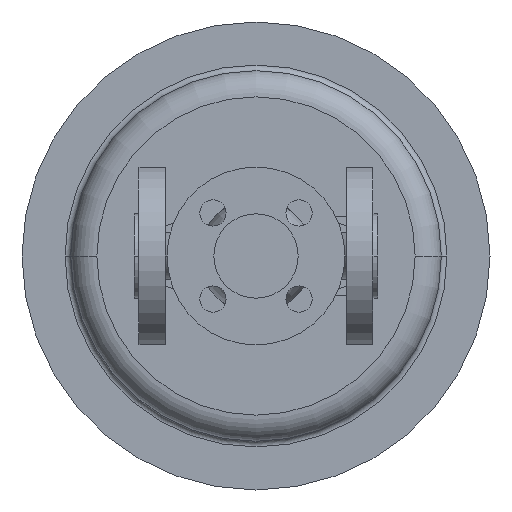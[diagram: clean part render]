
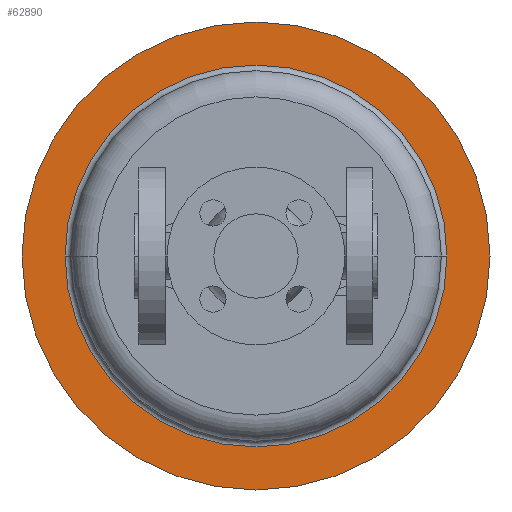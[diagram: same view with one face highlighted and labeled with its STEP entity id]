
A CAD part, front view. The second image highlights one B-rep face of the part: STEP entity #62890.
In plain terms, the highlighted planar face has unit normal (0, -1, 0).
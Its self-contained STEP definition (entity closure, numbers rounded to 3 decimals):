
#49030=CARTESIAN_POINT('',(-60.,568.,0.));
#49040=VERTEX_POINT('',#49030);
#49070=CARTESIAN_POINT('',(65.,568.,0.));
#49080=DIRECTION('',(0.,1.,0.));
#49090=DIRECTION('',(1.,0.,0.));
#49100=AXIS2_PLACEMENT_3D('',#49070,#49080,#49090);
#49110=CIRCLE('',#49100,125.);
#49120=CARTESIAN_POINT('',(190.,568.,0.));
#49130=VERTEX_POINT('',#49120);
#49140=EDGE_CURVE('',#49130,#49040,#49110,.T.);
#49460=CARTESIAN_POINT('',(167.,568.,0.));
#49470=VERTEX_POINT('',#49460);
#49500=CARTESIAN_POINT('',(65.,568.,0.));
#49510=DIRECTION('',(0.,1.,0.));
#49520=DIRECTION('',(1.,0.,0.));
#49530=AXIS2_PLACEMENT_3D('',#49500,#49510,#49520);
#49540=CIRCLE('',#49530,102.);
#49550=CARTESIAN_POINT('',(-37.,568.,0.));
#49560=VERTEX_POINT('',#49550);
#49570=EDGE_CURVE('',#49470,#49560,#49540,.T.);
#62740=CARTESIAN_POINT('',(178.5,568.,0.));
#62750=DIRECTION('',(0.,-1.,0.));
#62760=DIRECTION('',(-1.,0.,0.));
#62770=AXIS2_PLACEMENT_3D('',#62740,#62750,#62760);
#62780=PLANE('',#62770);
#62790=ORIENTED_EDGE('',*,*,#49140,.F.);
#62800=EDGE_CURVE('',#49040,#49130,#49110,.T.);
#62810=ORIENTED_EDGE('',*,*,#62800,.F.);
#62820=EDGE_LOOP('',(#62810,#62790));
#62830=FACE_OUTER_BOUND('',#62820,.T.);
#62840=ORIENTED_EDGE('',*,*,#49570,.T.);
#62850=EDGE_CURVE('',#49560,#49470,#49540,.T.);
#62860=ORIENTED_EDGE('',*,*,#62850,.T.);
#62870=EDGE_LOOP('',(#62860,#62840));
#62880=FACE_BOUND('',#62870,.T.);
#62890=ADVANCED_FACE('',(#62830,#62880),#62780,.T.);
